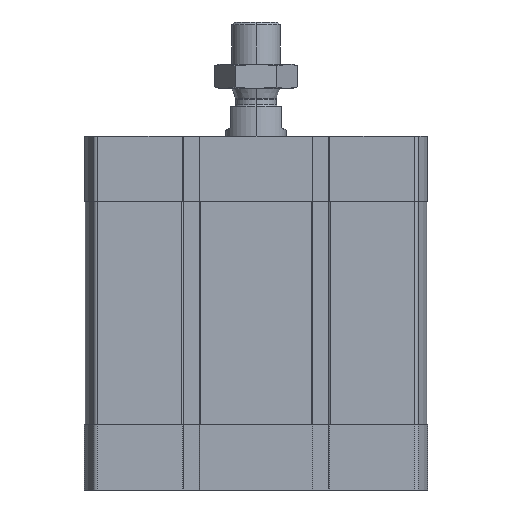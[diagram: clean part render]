
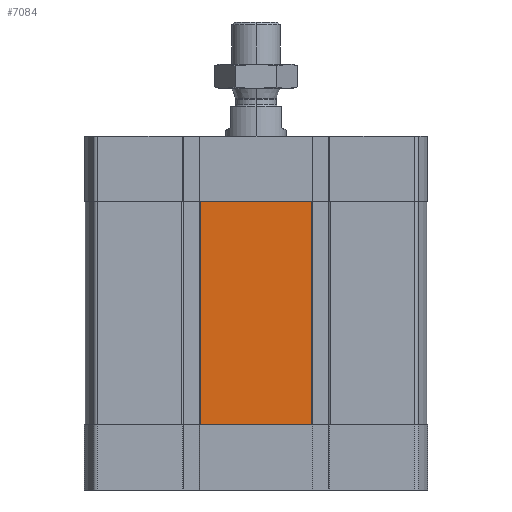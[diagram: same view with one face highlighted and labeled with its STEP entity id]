
A CAD part, left-side view. The second image highlights one B-rep face of the part: STEP entity #7084.
In plain terms, the highlighted planar face has unit normal (-1, 0, 0).
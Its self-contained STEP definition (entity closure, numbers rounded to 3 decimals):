
#499 = DIRECTION ( 'NONE',  ( -1., 0., 0. ) ) ;
#1897 = VECTOR ( 'NONE', #8461, 1000. ) ;
#2050 = VERTEX_POINT ( 'NONE', #10723 ) ;
#2280 = VECTOR ( 'NONE', #18218, 1000. ) ;
#2363 = ORIENTED_EDGE ( 'NONE', *, *, #5593, .F. ) ;
#2763 = LINE ( 'NONE', #20593, #17818 ) ;
#3406 = LINE ( 'NONE', #10060, #1897 ) ;
#3731 = FACE_OUTER_BOUND ( 'NONE', #17255, .T. ) ;
#3792 = EDGE_CURVE ( 'NONE', #5508, #4595, #5207, .T. ) ;
#4542 = ORIENTED_EDGE ( 'NONE', *, *, #5766, .T. ) ;
#4595 = VERTEX_POINT ( 'NONE', #20074 ) ;
#5201 = CARTESIAN_POINT ( 'NONE',  ( -56.5, -18.345, -95.5 ) ) ;
#5207 = LINE ( 'NONE', #7045, #2280 ) ;
#5508 = VERTEX_POINT ( 'NONE', #11383 ) ;
#5593 = EDGE_CURVE ( 'NONE', #2050, #5508, #14601, .T. ) ;
#5766 = EDGE_CURVE ( 'NONE', #8991, #4595, #2763, .T. ) ;
#5880 = DIRECTION ( 'NONE',  ( 0., 0., 1. ) ) ;
#6203 = ORIENTED_EDGE ( 'NONE', *, *, #3792, .F. ) ;
#6440 = DIRECTION ( 'NONE',  ( 0., 0., 1. ) ) ;
#6851 = AXIS2_PLACEMENT_3D ( 'NONE', #16842, #499, #17367 ) ;
#7045 = CARTESIAN_POINT ( 'NONE',  ( -56.5, 18.345, -21.5 ) ) ;
#7084 = ADVANCED_FACE ( 'NONE', ( #3731 ), #10288, .T. ) ;
#8461 = DIRECTION ( 'NONE',  ( 0., -1., 0. ) ) ;
#8991 = VERTEX_POINT ( 'NONE', #5201 ) ;
#10060 = CARTESIAN_POINT ( 'NONE',  ( -56.5, 18.345, -95.5 ) ) ;
#10288 = PLANE ( 'NONE',  #6851 ) ;
#10695 = ORIENTED_EDGE ( 'NONE', *, *, #19166, .T. ) ;
#10723 = CARTESIAN_POINT ( 'NONE',  ( -56.5, 18.345, -95.5 ) ) ;
#11383 = CARTESIAN_POINT ( 'NONE',  ( -56.5, 18.345, -21.5 ) ) ;
#14601 = LINE ( 'NONE', #18047, #15991 ) ;
#15991 = VECTOR ( 'NONE', #6440, 1000. ) ;
#16842 = CARTESIAN_POINT ( 'NONE',  ( -56.5, 18.345, -95.5 ) ) ;
#17255 = EDGE_LOOP ( 'NONE', ( #6203, #2363, #10695, #4542 ) ) ;
#17367 = DIRECTION ( 'NONE',  ( 0., 0., 1. ) ) ;
#17818 = VECTOR ( 'NONE', #5880, 1000. ) ;
#18047 = CARTESIAN_POINT ( 'NONE',  ( -56.5, 18.345, -95.5 ) ) ;
#18218 = DIRECTION ( 'NONE',  ( 0., -1., 0. ) ) ;
#19166 = EDGE_CURVE ( 'NONE', #2050, #8991, #3406, .T. ) ;
#20074 = CARTESIAN_POINT ( 'NONE',  ( -56.5, -18.345, -21.5 ) ) ;
#20593 = CARTESIAN_POINT ( 'NONE',  ( -56.5, -18.345, -95.5 ) ) ;
